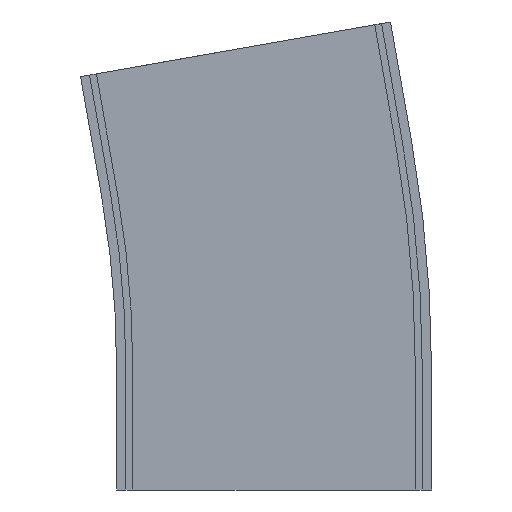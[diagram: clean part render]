
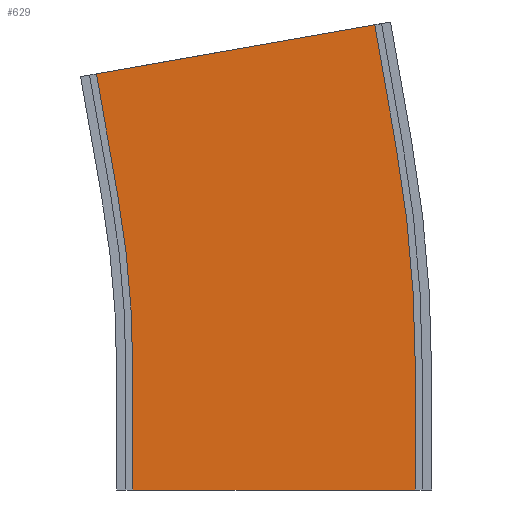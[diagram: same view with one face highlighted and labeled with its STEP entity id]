
A CAD part, left-side view. The second image highlights one B-rep face of the part: STEP entity #629.
In plain terms, the highlighted planar face has unit normal (-1, 0, 0).
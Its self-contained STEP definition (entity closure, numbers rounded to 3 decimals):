
#6 = CARTESIAN_POINT ( 'NONE',  ( -211.5, -52.723, 149.96 ) ) ;
#42 = DIRECTION ( 'NONE',  ( 0., 0., 1. ) ) ;
#74 = VERTEX_POINT ( 'NONE', #497 ) ;
#160 = CIRCLE ( 'NONE', #1373, 561.25 ) ;
#166 = PLANE ( 'NONE',  #400 ) ;
#188 = EDGE_CURVE ( 'NONE', #551, #74, #255, .T. ) ;
#235 = CARTESIAN_POINT ( 'NONE',  ( -211.5, -61.25, 0. ) ) ;
#255 = LINE ( 'NONE', #419, #1025 ) ;
#260 = VERTEX_POINT ( 'NONE', #513 ) ;
#271 = CARTESIAN_POINT ( 'NONE',  ( -211.5, 500., 52.5 ) ) ;
#272 = LINE ( 'NONE', #1101, #1085 ) ;
#312 = CARTESIAN_POINT ( 'NONE',  ( -211.5, 61.25, 52.5 ) ) ;
#352 = CARTESIAN_POINT ( 'NONE',  ( -211.5, -43.607, 201.662 ) ) ;
#382 = DIRECTION ( 'NONE',  ( 0., 0., -1. ) ) ;
#394 = DIRECTION ( 'NONE',  ( -1., 0., 0. ) ) ;
#400 = AXIS2_PLACEMENT_3D ( 'NONE', #1342, #918, #1127 ) ;
#419 = CARTESIAN_POINT ( 'NONE',  ( -211.5, -52.723, 149.96 ) ) ;
#454 = CARTESIAN_POINT ( 'NONE',  ( -211.5, 67.916, 128.688 ) ) ;
#496 = EDGE_CURVE ( 'NONE', #1175, #803, #272, .T. ) ;
#497 = CARTESIAN_POINT ( 'NONE',  ( -211.5, -43.607, 201.662 ) ) ;
#513 = CARTESIAN_POINT ( 'NONE',  ( -211.5, 67.916, 128.688 ) ) ;
#517 = VERTEX_POINT ( 'NONE', #669 ) ;
#538 = DIRECTION ( 'NONE',  ( 0., 0., 1. ) ) ;
#543 = DIRECTION ( 'NONE',  ( 0., 0., -1. ) ) ;
#551 = VERTEX_POINT ( 'NONE', #6 ) ;
#566 = DIRECTION ( 'NONE',  ( 0., -1., 0. ) ) ;
#589 = LINE ( 'NONE', #1351, #626 ) ;
#614 = DIRECTION ( 'NONE',  ( 0., 0.174, 0.985 ) ) ;
#626 = VECTOR ( 'NONE', #382, 1000. ) ;
#629 = ADVANCED_FACE ( 'NONE', ( #1023 ), #166, .F. ) ;
#664 = DIRECTION ( 'NONE',  ( 0., -0.985, 0.174 ) ) ;
#669 = CARTESIAN_POINT ( 'NONE',  ( -211.5, 61.25, 52.5 ) ) ;
#728 = VECTOR ( 'NONE', #1318, 1000. ) ;
#746 = VECTOR ( 'NONE', #543, 1000. ) ;
#760 = DIRECTION ( 'NONE',  ( -1., 0., 0. ) ) ;
#798 = CARTESIAN_POINT ( 'NONE',  ( -211.5, 61.25, 0. ) ) ;
#803 = VERTEX_POINT ( 'NONE', #235 ) ;
#843 = ORIENTED_EDGE ( 'NONE', *, *, #879, .T. ) ;
#847 = LINE ( 'NONE', #312, #746 ) ;
#867 = CARTESIAN_POINT ( 'NONE',  ( -211.5, 77.032, 180.391 ) ) ;
#879 = EDGE_CURVE ( 'NONE', #517, #1175, #847, .T. ) ;
#910 = ORIENTED_EDGE ( 'NONE', *, *, #1152, .F. ) ;
#918 = DIRECTION ( 'NONE',  ( 1., 0., 0. ) ) ;
#976 = CARTESIAN_POINT ( 'NONE',  ( -211.5, 500., 52.5 ) ) ;
#992 = ORIENTED_EDGE ( 'NONE', *, *, #188, .T. ) ;
#1003 = EDGE_CURVE ( 'NONE', #1316, #74, #1290, .T. ) ;
#1015 = CIRCLE ( 'NONE', #1122, 438.75 ) ;
#1017 = LINE ( 'NONE', #454, #728 ) ;
#1023 = FACE_OUTER_BOUND ( 'NONE', #1287, .T. ) ;
#1025 = VECTOR ( 'NONE', #614, 1000. ) ;
#1031 = ORIENTED_EDGE ( 'NONE', *, *, #1119, .T. ) ;
#1048 = EDGE_CURVE ( 'NONE', #260, #1316, #1017, .T. ) ;
#1085 = VECTOR ( 'NONE', #566, 1000. ) ;
#1101 = CARTESIAN_POINT ( 'NONE',  ( -211.5, -61.25, 0. ) ) ;
#1119 = EDGE_CURVE ( 'NONE', #1401, #551, #160, .T. ) ;
#1122 = AXIS2_PLACEMENT_3D ( 'NONE', #976, #760, #538 ) ;
#1127 = DIRECTION ( 'NONE',  ( 0., 1., 0. ) ) ;
#1152 = EDGE_CURVE ( 'NONE', #1401, #803, #589, .T. ) ;
#1175 = VERTEX_POINT ( 'NONE', #798 ) ;
#1178 = ORIENTED_EDGE ( 'NONE', *, *, #1003, .F. ) ;
#1212 = ORIENTED_EDGE ( 'NONE', *, *, #1311, .F. ) ;
#1216 = CARTESIAN_POINT ( 'NONE',  ( -211.5, -61.25, 52.5 ) ) ;
#1228 = ORIENTED_EDGE ( 'NONE', *, *, #1048, .F. ) ;
#1287 = EDGE_LOOP ( 'NONE', ( #1352, #910, #1031, #992, #1178, #1228, #1212, #843 ) ) ;
#1290 = LINE ( 'NONE', #352, #1354 ) ;
#1311 = EDGE_CURVE ( 'NONE', #517, #260, #1015, .T. ) ;
#1316 = VERTEX_POINT ( 'NONE', #867 ) ;
#1318 = DIRECTION ( 'NONE',  ( 0., 0.174, 0.985 ) ) ;
#1342 = CARTESIAN_POINT ( 'NONE',  ( -211.5, -61.25, 52.5 ) ) ;
#1351 = CARTESIAN_POINT ( 'NONE',  ( -211.5, -61.25, 52.5 ) ) ;
#1352 = ORIENTED_EDGE ( 'NONE', *, *, #496, .T. ) ;
#1354 = VECTOR ( 'NONE', #664, 1000. ) ;
#1373 = AXIS2_PLACEMENT_3D ( 'NONE', #271, #394, #42 ) ;
#1401 = VERTEX_POINT ( 'NONE', #1216 ) ;
